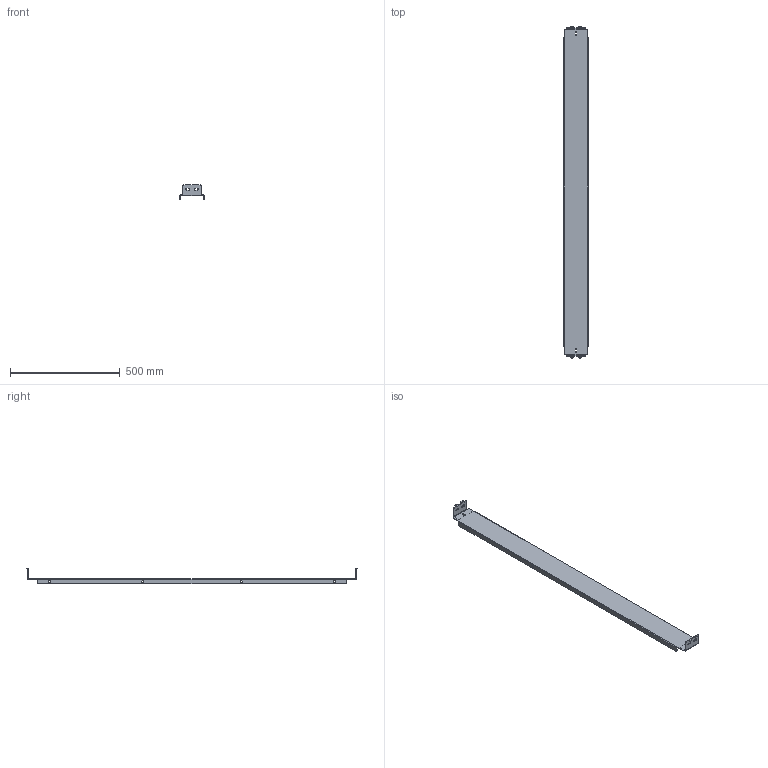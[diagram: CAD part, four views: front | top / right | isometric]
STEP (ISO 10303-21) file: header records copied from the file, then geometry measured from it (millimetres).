
FILE_DESCRIPTION (( 'STEP AP203' ), '1' );
FILE_NAME ('1600_piastra intermedia_EUPN_Enux.STEP', '2015-03-03T14:38:26', ( 'Admin' ), ( '' ), 'SwSTEP 2.0', 'SolidWorks 2014', '' );
FILE_SCHEMA (( 'CONFIG_CONTROL_DESIGN' ));
Length unit declared in the file: millimetre
Products named in the file (1): 1600_piastra intermedia_EUPN_Enux
Bounding box: 111 x 1515 x 71.5 mm (x, y, z)
Volume: 583333.9 mm3; surface area: 468562 mm2
Topology: 1 solids, 1 shells, 138 faces, 380 edges, 244 vertices
Faces by surface type: plane 70, cylinder 68
Entity records: 4529 total; most frequent: DIRECTION 794, CARTESIAN_POINT 763, ORIENTED_EDGE 760, EDGE_CURVE 380, AXIS2_PLACEMENT_3D 275, VERTEX_POINT 244, LINE 244, VECTOR 244
